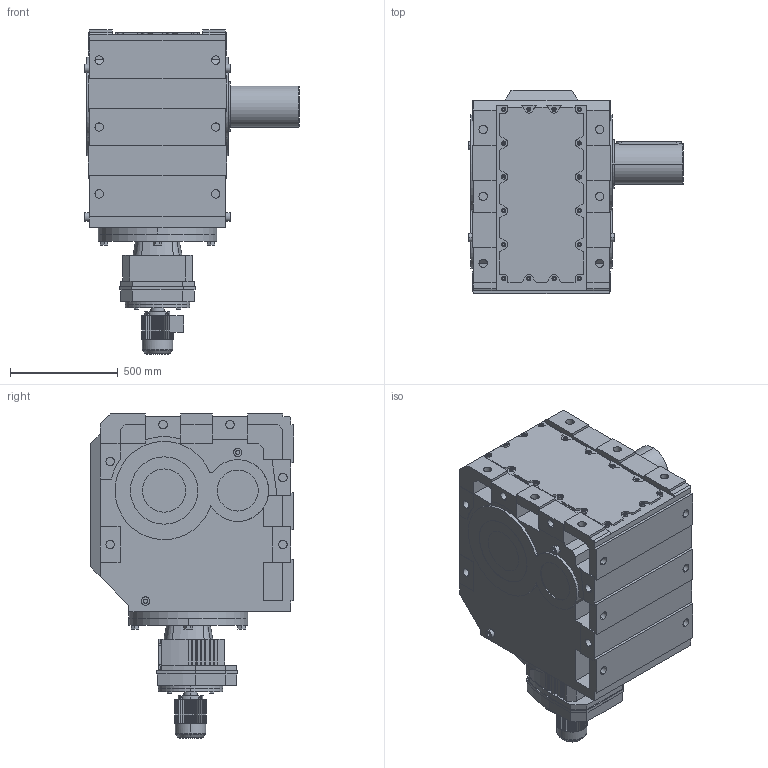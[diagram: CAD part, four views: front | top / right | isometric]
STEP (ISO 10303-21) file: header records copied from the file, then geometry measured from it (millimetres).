
FILE_DESCRIPTION(('Open CASCADE Model'),'2;1');
FILE_NAME('Open CASCADE Shape Model','2021-07-24T16:22:09',('Author'),( 'Open CASCADE'),'Open CASCADE STEP processor 6.3','Open CASCADE 6.3' ,'Unknown');
FILE_SCHEMA(('AUTOMOTIVE_DESIGN_CC2 { 1 2 10303 214 -1 1 5 4 }'));
Length unit declared in the file: millimetre
Products named in the file (5): 1_K187R97DT80-A; K167‵187_187.step; 萇儂_300-DT80-231-295-145-122.step; R_187_97.step; す瑩妗陑粣K_187.step
Assembly tree (4 placements, depth 2):
  1_K187R97DT80-A
    K167‵187_187.step
    萇儂_300-DT80-231-295-145-122.step
    R_187_97.step
    す瑩妗陑粣K_187.step
Bounding box: 994 x 942 x 1502 mm (x, y, z)
Volume: 548947485.5 mm3; surface area: 7469890.8 mm2
Topology: 4 solids, 4 shells, 1158 faces, 3026 edges, 1979 vertices
Faces by surface type: plane 801, cylinder 337, cone 16, torus 4
Entity records: 76120 total; most frequent: CARTESIAN_POINT 17814, DIRECTION 10228, ORIENTED_EDGE 6048, PCURVE 6048, DEFINITIONAL_REPRESENTATION 6048, LINE 5768, VECTOR 5768, EDGE_CURVE 3024
